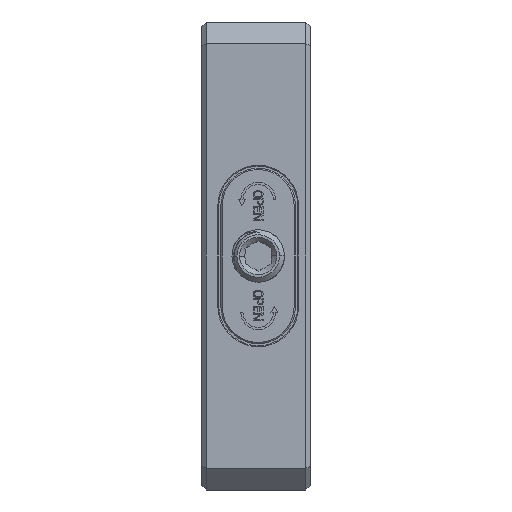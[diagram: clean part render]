
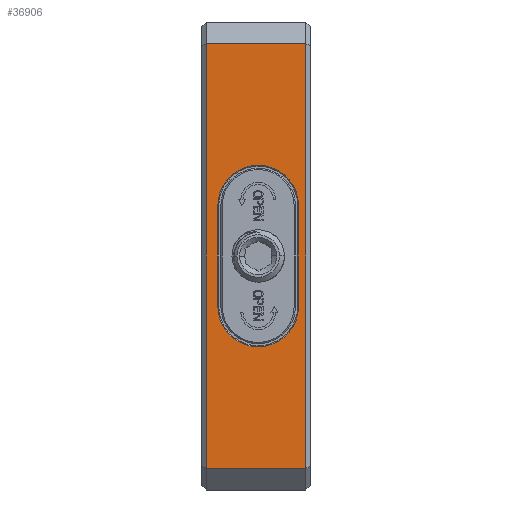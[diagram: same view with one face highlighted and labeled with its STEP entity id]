
A CAD part, left-side view. The second image highlights one B-rep face of the part: STEP entity #36906.
In plain terms, the highlighted planar face has unit normal (-1, 0, 0).
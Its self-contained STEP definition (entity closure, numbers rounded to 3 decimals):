
#6358=DIRECTION('',(0.,0.,1.));
#6359=VECTOR('',#6358,98.);
#6360=CARTESIAN_POINT('',(-54.,24.,-49.));
#6361=LINE('',#6360,#6359);
#6362=DIRECTION('',(0.,-1.,0.));
#6363=VECTOR('',#6362,23.);
#6364=CARTESIAN_POINT('',(-54.,24.,49.));
#6365=LINE('',#6364,#6363);
#6366=DIRECTION('',(0.,0.,-1.));
#6367=VECTOR('',#6366,98.);
#6368=CARTESIAN_POINT('',(-54.,1.,49.));
#6369=LINE('',#6368,#6367);
#6370=DIRECTION('',(0.,-1.,0.));
#6371=VECTOR('',#6370,23.);
#6372=CARTESIAN_POINT('',(-54.,24.,-49.));
#6373=LINE('',#6372,#6371);
#6374=CARTESIAN_POINT('',(-54.,12.,-11.621));
#6375=DIRECTION('',(1.,0.,0.));
#6376=DIRECTION('',(0.,-1.,0.));
#6377=AXIS2_PLACEMENT_3D('',#6374,#6375,#6376);
#6379=DIRECTION('',(0.,0.,-1.));
#6380=VECTOR('',#6379,23.241);
#6381=CARTESIAN_POINT('',(-54.,2.694,11.62));
#6382=LINE('',#6381,#6380);
#6383=CARTESIAN_POINT('',(-54.,12.,11.621));
#6384=DIRECTION('',(1.,0.,0.));
#6385=DIRECTION('',(0.,1.,0.));
#6386=AXIS2_PLACEMENT_3D('',#6383,#6384,#6385);
#6388=DIRECTION('',(0.,0.,1.));
#6389=VECTOR('',#6388,23.241);
#6390=CARTESIAN_POINT('',(-54.,21.306,
-11.62));
#6391=LINE('',#6390,#6389);
#24185=CARTESIAN_POINT('',(-54.,24.,-49.));
#24186=VERTEX_POINT('',#24185);
#24189=CARTESIAN_POINT('',(-54.,24.,49.));
#24190=VERTEX_POINT('',#24189);
#24215=CARTESIAN_POINT('',(-54.,1.,-49.));
#24216=VERTEX_POINT('',#24215);
#24227=CARTESIAN_POINT('',(-54.,1.,49.));
#24228=VERTEX_POINT('',#24227);
#24489=CARTESIAN_POINT('',(-54.,2.694,-11.621));
#24490=CARTESIAN_POINT('',(-54.,21.306,-11.621));
#24491=VERTEX_POINT('',#24489);
#24492=VERTEX_POINT('',#24490);
#24497=CARTESIAN_POINT('',(-54.,21.306,
11.62));
#24498=VERTEX_POINT('',#24497);
#24501=CARTESIAN_POINT('',(-54.,2.694,11.621));
#24502=VERTEX_POINT('',#24501);
#36883=CARTESIAN_POINT('',(-54.,25.,-54.));
#36884=DIRECTION('',(-1.,0.,0.));
#36885=DIRECTION('',(0.,0.,1.));
#36886=AXIS2_PLACEMENT_3D('',#36883,#36884,#36885);
#36887=PLANE('',#36886);
#36888=ORIENTED_EDGE('',*,*,#36874,.T.);
#36890=ORIENTED_EDGE('',*,*,#36889,.T.);
#36892=ORIENTED_EDGE('',*,*,#36891,.T.);
#36893=ORIENTED_EDGE('',*,*,#36849,.F.);
#36894=EDGE_LOOP('',(#36888,#36890,#36892,#36893));
#36895=FACE_OUTER_BOUND('',#36894,.F.);
#36897=ORIENTED_EDGE('',*,*,#36896,.F.);
#36899=ORIENTED_EDGE('',*,*,#36898,.F.);
#36901=ORIENTED_EDGE('',*,*,#36900,.F.);
#36903=ORIENTED_EDGE('',*,*,#36902,.F.);
#36904=EDGE_LOOP('',(#36897,#36899,#36901,#36903));
#36905=FACE_BOUND('',#36904,.F.);
#36906=ADVANCED_FACE('',(#36895,#36905),#36887,.T.);
#6378=CIRCLE('',#6377,9.306);
#6387=CIRCLE('',#6386,9.306);
#36849=EDGE_CURVE('',#24186,#24216,#6373,.T.);
#36874=EDGE_CURVE('',#24186,#24190,#6361,.T.);
#36889=EDGE_CURVE('',#24190,#24228,#6365,.T.);
#36891=EDGE_CURVE('',#24228,#24216,#6369,.T.);
#36896=EDGE_CURVE('',#24491,#24492,#6378,.T.);
#36898=EDGE_CURVE('',#24502,#24491,#6382,.T.);
#36900=EDGE_CURVE('',#24498,#24502,#6387,.T.);
#36902=EDGE_CURVE('',#24492,#24498,#6391,.T.);
